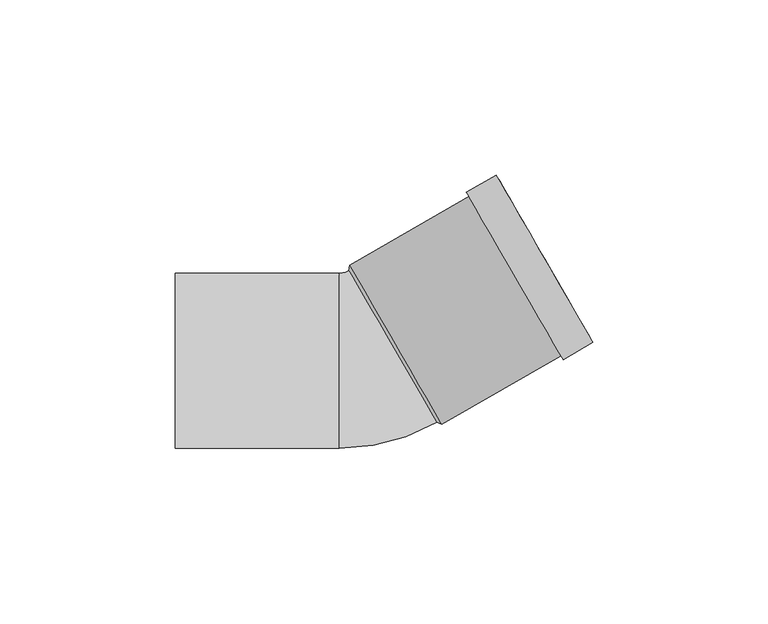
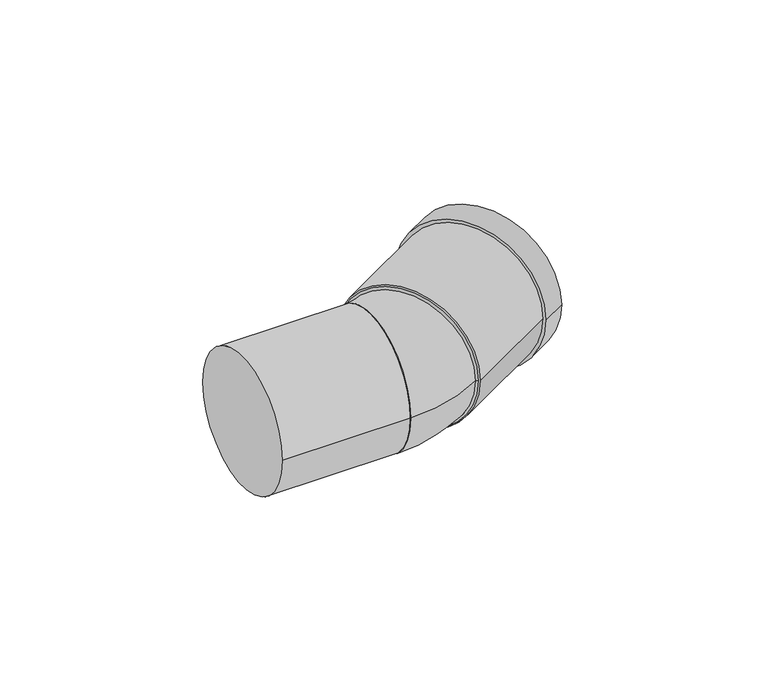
"""IFC4 building model written with IfcOpenShell, lengths in millimetres: pipe fitting geometry, Superdrain HT bend : Superdrain HT Bend."""

from ifc_helpers import new_model, si_unit, point, frame, origin, origin_2d, place, context, project, spatial, polyline, circle_curve, ellipse_curve, trimmed, segment, composite_curve, outline, extrude, source, transform, mapped, element, save
from ifc_brep_helpers import plane_surface, revolved_surface, advanced_brep


def pipe_fitting_5491f5a7(model_context):
    return source(origin(), model_context, "Body", "SolidModel", [
        advanced_brep(
        [(19.6014083, -17.5506351, 0.0), (-5.3985917, 25.7506351, 0.0), (-8.2, -25.0, 0.0), (-8.2, 25.0, 0.0)],
        [
            (0, 1, circle_curve(frame((7.1014083, 4.1, 0.0), z_axis=(0.866025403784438, 0.5000000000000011, 0.0), x_axis=(-0.5000000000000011, 0.866025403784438, 0.0)), 25.0)),
            (1, 0, circle_curve(frame((7.1014083, 4.1, 0.0), z_axis=(0.8660254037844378, 0.5000000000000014, 0.0), x_axis=(-0.5000000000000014, 0.8660254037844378, 0.0)), 25.0)),
            (2, 3, circle_curve(frame((-8.2, 0.0, 0.0), z_axis=(-1.0, 0.0, 0.0), x_axis=(0.0, 1.0, 0.0)), 25.0)),
            (3, 2, circle_curve(frame((-8.2, 0.0, 0.0), z_axis=(-1.0, 0.0, 0.0), x_axis=(0.0, 1.0, 0.0)), 25.0)),
            (3, 1, circle_curve(frame((-8.2, 30.6028166, 0.0), z_axis=(0.0, 0.0, 1.0), x_axis=(1.0, 0.0, 0.0)), 5.6028166)),
            (0, 2, circle_curve(frame((-8.2, 30.6028166, 0.0), z_axis=(0.0, 0.0, -1.0), x_axis=(1.0, 0.0, 0.0)), 55.6028166)),
        ],
        [
            plane_surface(frame((7.1014083, 4.1, 0.0), z_axis=(0.866025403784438, 0.5000000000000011, 0.0), x_axis=(0.0, 0.0, -1.0))),
            plane_surface(frame((-8.2, 0.0, 0.0), z_axis=(-1.0, 0.0, 0.0), x_axis=(0.0, 0.0, -1.0))),
            revolved_surface(trimmed(ellipse_curve(frame((22.4028166, 30.6028166, 0.0), z_axis=(0.0, -1.0, 0.0), x_axis=(-1.0, 0.0, 0.0)), 25.0, 25.0), [point((-2.5971834, 30.6028166, 0.0))], [point((47.4028166, 30.6028166, 0.0))], True, "CARTESIAN"), (-8.2, 30.6028166, 0.0), (0.0, 0.0, 1.0)),
            revolved_surface(trimmed(ellipse_curve(frame((22.4028166, 30.6028166, 0.0), z_axis=(0.0, -1.0, 0.0), x_axis=(-1.0, 0.0, 0.0)), 25.0, 25.0), [point((47.4028166, 30.6028166, 0.0))], [point((-2.5971834, 30.6028166, 0.0))], True, "CARTESIAN"), (-8.2, 30.6028166, 0.0), (0.0, 0.0, 1.0)),
        ],
        [
            (0, [[1, 2]]),
            (1, [[3, 4]]),
            (2, [[-4, 5, -1, 6]]),
            (3, [[-3, -6, -2, -5]]),
        ],
    ),
        extrude(outline(composite_curve([segment(trimmed(circle_curve(origin_2d(), 26.25), [point((0.0, 26.25))], [point((0.0, -26.25))], False, "CARTESIAN"), True, "CONTINUOUS"), segment(trimmed(circle_curve(origin_2d(), 26.25), [point((0.0, -26.25))], [point((0.0, 26.25))], False, "CARTESIAN"), True, "CONTINUOUS")], self_intersect=False), holes=[composite_curve([segment(trimmed(circle_curve(origin_2d(), 25.0), [point((0.0, 25.0))], [point((0.0, -25.0))], True, "CARTESIAN"), True, "CONTINUOUS"), segment(trimmed(circle_curve(origin_2d(), 25.0), [point((0.0, -25.0))], [point((0.0, 25.0))], True, "CARTESIAN"), True, "CONTINUOUS")], self_intersect=False)]), frame((7.9674337, 4.6, 0.0), z_axis=(0.8660254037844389, 0.4999999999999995, 0.0), x_axis=(0.0, 0.0, 1.0)), (0.0, 0.0, 1.0), 49.0),
        extrude(outline(composite_curve([segment(trimmed(circle_curve(origin_2d(), 27.5625), [point((0.0, -27.5625))], [point((0.0, 27.5625))], False, "CARTESIAN"), True, "CONTINUOUS"), segment(trimmed(circle_curve(origin_2d(), 27.5625), [point((0.0, 27.5625))], [point((0.0, -27.5625))], False, "CARTESIAN"), True, "CONTINUOUS")], self_intersect=False), holes=[composite_curve([segment(trimmed(circle_curve(origin_2d(), 25.0), [point((0.0, -25.0))], [point((0.0, 25.0))], True, "CARTESIAN"), True, "CONTINUOUS"), segment(trimmed(circle_curve(origin_2d(), 25.0), [point((0.0, 25.0))], [point((0.0, -25.0))], True, "CARTESIAN"), True, "CONTINUOUS")], self_intersect=False)]), frame((41.9156295, 24.2, 0.0), z_axis=(0.8660254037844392, 0.49999999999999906, 0.0), x_axis=(0.0, 0.0, 1.0)), (0.0, 0.0, 1.0), 9.8),
        advanced_brep(
        [(21.0924337, -18.1331668, 0.0), (-5.1575663, 27.3331668, 0.0), (19.6014083, -17.5506351, 0.0), (-5.3985917, 25.7506351, 0.0)],
        [
            (0, 1, circle_curve(frame((7.9674337, 4.6, 0.0), z_axis=(0.8660254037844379, 0.5000000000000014, 0.0), x_axis=(0.5000000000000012, -0.866025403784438, 0.0)), 26.25)),
            (1, 0, circle_curve(frame((7.9674337, 4.6, 0.0), z_axis=(0.8660254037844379, 0.5000000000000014, 0.0), x_axis=(-0.5000000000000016, 0.8660254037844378, 0.0)), 26.25)),
            (2, 3, circle_curve(frame((7.1014083, 4.1, 0.0), z_axis=(-0.8660254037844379, -0.5000000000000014, 0.0), x_axis=(-0.5000000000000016, 0.8660254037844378, 0.0)), 25.0)),
            (3, 2, circle_curve(frame((7.1014083, 4.1, 0.0), z_axis=(-0.8660254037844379, -0.5000000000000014, 0.0), x_axis=(0.5000000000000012, -0.866025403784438, 0.0)), 25.0)),
            (3, 1),
            (0, 2),
        ],
        [
            plane_surface(frame((7.9674337, 4.6, 0.0), z_axis=(0.8660254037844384, 0.5000000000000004, 0.0), x_axis=(0.0, 0.0, -1.0))),
            plane_surface(frame((7.1014083, 4.1, 0.0), z_axis=(-0.8660254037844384, -0.5000000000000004, 0.0), x_axis=(0.0, 0.0, -1.0))),
            revolved_surface(polyline([(-5.398591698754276, 25.75063508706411, 0.0), (-5.157566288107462, 27.333166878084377, 0.0)]), (-10.2190998, -5.9, 0.0), (0.8660254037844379, 0.5000000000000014, 0.0)),
            revolved_surface(polyline([(19.601408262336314, -17.550635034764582, 0.0), (21.0924337, -18.1331668, 0.0)]), (-10.2190998, -5.9, 0.0), (0.8660254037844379, 0.5000000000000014, 0.0)),
        ],
        [
            (0, [[1, 2]]),
            (1, [[3, 4]]),
            (2, [[-4, 5, -1, 6]]),
            (3, [[-3, -6, -2, -5]]),
        ],
    ),
        extrude(outline(composite_curve([segment(trimmed(circle_curve(origin_2d(), 25.0), [point((-25.0, 0.0))], [point((25.0, 0.0))], False, "CARTESIAN"), True, "CONTINUOUS"), segment(trimmed(circle_curve(origin_2d(), 25.0), [point((25.0, 0.0))], [point((-25.0, 0.0))], False, "CARTESIAN"), True, "CONTINUOUS")], self_intersect=False)), frame((-55.0, 0.0, 0.0), z_axis=(1.0, 0.0, 0.0), x_axis=(0.0, 1.0, 0.0)), (0.0, 0.0, 1.0), 46.8),
    ])


if __name__ == "__main__":
    model = new_model("IFC4")
    model_context = context("Model", 3, world=origin())
    ifc_project = project(units=[si_unit("LENGTHUNIT", "METRE", prefix="MILLI")], contexts=[model_context])
    site = spatial("IfcSite", under=ifc_project)
    building = spatial("IfcBuilding", under=site)
    placement = place(None, origin())
    pipe_fitting_shape = pipe_fitting_5491f5a7(model_context)
    element("IfcPipeFitting", 1, ObjectType="Superdrain HT bend : Superdrain HT Bend", at=placement, inside=building, context=model_context, shape_type="MappedRepresentation", body=[
        mapped(pipe_fitting_shape, transform((0.0, 0.0, 0.0), x_axis=(1.0, 0.0, 0.0), y_axis=(0.0, 1.0, 0.0), z_axis=(0.0, 0.0, 1.0))),
    ])
    save(model, "model.ifc")
